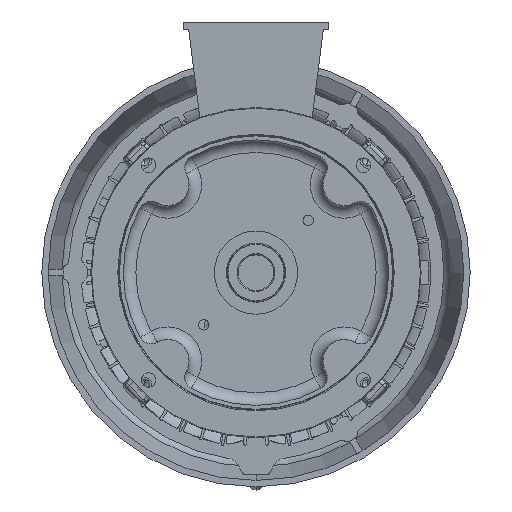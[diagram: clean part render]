
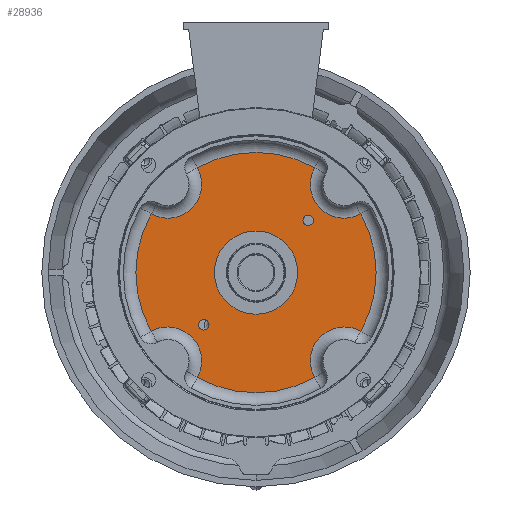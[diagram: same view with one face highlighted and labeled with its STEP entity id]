
A CAD part, front view. The second image highlights one B-rep face of the part: STEP entity #28936.
In plain terms, the highlighted planar face has unit normal (0, -1, 0) as drawn and (0, 0, 1) by its records, which use the part's own axes.
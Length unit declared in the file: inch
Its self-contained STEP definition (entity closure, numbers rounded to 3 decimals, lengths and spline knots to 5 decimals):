
#15440=CARTESIAN_POINT('',(1.56907,1.56907,3.76));
#15441=DIRECTION('',(0.,0.,1.));
#15442=DIRECTION('',(1.,0.,0.));
#15443=AXIS2_PLACEMENT_3D('',#15440,#15441,#15442);
#15445=CARTESIAN_POINT('',(1.56907,1.56907,3.76));
#15446=DIRECTION('',(0.,0.,1.));
#15447=DIRECTION('',(-1.,0.,0.));
#15448=AXIS2_PLACEMENT_3D('',#15445,#15446,#15447);
#15450=CARTESIAN_POINT('',(0.,0.,3.76));
#15451=DIRECTION('',(0.,0.,-1.));
#15452=DIRECTION('',(0.,1.,0.));
#15453=AXIS2_PLACEMENT_3D('',#15450,#15451,#15452);
#15455=CARTESIAN_POINT('',(0.,0.,3.76));
#15456=DIRECTION('',(0.,0.,-1.));
#15457=DIRECTION('',(0.,-1.,0.));
#15458=AXIS2_PLACEMENT_3D('',#15455,#15456,#15457);
#15460=CARTESIAN_POINT('',(-1.56907,-1.56907,3.76));
#15461=DIRECTION('',(0.,0.,1.));
#15462=DIRECTION('',(1.,0.,0.));
#15463=AXIS2_PLACEMENT_3D('',#15460,#15461,#15462);
#15465=CARTESIAN_POINT('',(-1.56907,-1.56907,3.76));
#15466=DIRECTION('',(0.,0.,1.));
#15467=DIRECTION('',(-1.,0.,0.));
#15468=AXIS2_PLACEMENT_3D('',#15465,#15466,#15467);
#15474=CARTESIAN_POINT('',(0.,0.,3.76));
#15475=DIRECTION('',(0.,0.,1.));
#15476=DIRECTION('',(0.873,-0.489,0.));
#15477=AXIS2_PLACEMENT_3D('',#15474,#15475,#15476);
#15479=CARTESIAN_POINT('',(0.,0.,3.76));
#15480=DIRECTION('',(0.,0.,1.));
#15481=DIRECTION('',(-0.489,-0.873,0.));
#15482=AXIS2_PLACEMENT_3D('',#15479,#15480,#15481);
#15484=CARTESIAN_POINT('',(0.,0.,3.76));
#15485=DIRECTION('',(0.,0.,1.));
#15486=DIRECTION('',(-0.873,0.489,0.));
#15487=AXIS2_PLACEMENT_3D('',#15484,#15485,#15486);
#15489=CARTESIAN_POINT('',(0.,0.,3.76));
#15490=DIRECTION('',(0.,0.,1.));
#15491=DIRECTION('',(0.489,0.873,0.));
#15492=AXIS2_PLACEMENT_3D('',#15489,#15490,#15491);
#19423=CARTESIAN_POINT('',(-2.65165,-2.65165,3.76));
#19424=DIRECTION('',(0.,0.,1.));
#19425=DIRECTION('',(0.871,-0.491,0.));
#19426=AXIS2_PLACEMENT_3D('',#19423,#19424,#19425);
#19468=CARTESIAN_POINT('',(2.65165,-2.65165,3.76));
#19469=DIRECTION('',(0.,0.,1.));
#19470=DIRECTION('',(0.491,0.871,0.));
#19471=AXIS2_PLACEMENT_3D('',#19468,#19469,#19470);
#19503=CARTESIAN_POINT('',(2.65165,2.65165,3.76));
#19504=DIRECTION('',(0.,0.,1.));
#19505=DIRECTION('',(-0.871,0.491,0.));
#19506=AXIS2_PLACEMENT_3D('',#19503,#19504,#19505);
#19548=CARTESIAN_POINT('',(-2.65165,2.65165,3.76));
#19549=DIRECTION('',(0.,0.,1.));
#19550=DIRECTION('',(-0.491,-0.871,0.));
#19551=AXIS2_PLACEMENT_3D('',#19548,#19549,#19550);
#22379=CARTESIAN_POINT('',(-3.15141,1.76448,3.76));
#22380=CARTESIAN_POINT('',(-3.15141,-1.76448,3.76));
#22381=VERTEX_POINT('',#22379);
#22382=VERTEX_POINT('',#22380);
#22383=CARTESIAN_POINT('',(-1.76448,-3.15141,3.76));
#22384=CARTESIAN_POINT('',(1.76448,-3.15141,3.76));
#22385=VERTEX_POINT('',#22383);
#22386=VERTEX_POINT('',#22384);
#22387=CARTESIAN_POINT('',(3.15141,-1.76448,3.76));
#22388=CARTESIAN_POINT('',(3.15141,1.76448,3.76));
#22389=VERTEX_POINT('',#22387);
#22390=VERTEX_POINT('',#22388);
#22391=CARTESIAN_POINT('',(1.76448,3.15141,3.76));
#22392=CARTESIAN_POINT('',(-1.76448,3.15141,3.76));
#22393=VERTEX_POINT('',#22391);
#22394=VERTEX_POINT('',#22392);
#22772=CARTESIAN_POINT('',(0.,1.25,3.76));
#22773=CARTESIAN_POINT('',(0.,-1.25,3.76));
#22774=VERTEX_POINT('',#22772);
#22775=VERTEX_POINT('',#22773);
#22837=CARTESIAN_POINT('',(-1.41257,-1.56907,3.76));
#22838=CARTESIAN_POINT('',(-1.72557,-1.56907,3.76));
#22839=VERTEX_POINT('',#22837);
#22840=VERTEX_POINT('',#22838);
#22845=CARTESIAN_POINT('',(1.72557,1.56907,3.76));
#22846=CARTESIAN_POINT('',(1.41257,1.56907,3.76));
#22847=VERTEX_POINT('',#22845);
#22848=VERTEX_POINT('',#22846);
#28896=CARTESIAN_POINT('',(0.,0.,3.76));
#28897=DIRECTION('',(0.,0.,1.));
#28898=DIRECTION('',(0.,1.,0.));
#28899=AXIS2_PLACEMENT_3D('',#28896,#28897,#28898);
#28900=PLANE('',#28899);
#28902=ORIENTED_EDGE('',*,*,#28901,.F.);
#28904=ORIENTED_EDGE('',*,*,#28903,.T.);
#28906=ORIENTED_EDGE('',*,*,#28905,.F.);
#28908=ORIENTED_EDGE('',*,*,#28907,.T.);
#28910=ORIENTED_EDGE('',*,*,#28909,.F.);
#28912=ORIENTED_EDGE('',*,*,#28911,.T.);
#28914=ORIENTED_EDGE('',*,*,#28913,.F.);
#28916=ORIENTED_EDGE('',*,*,#28915,.T.);
#28917=EDGE_LOOP('',(#28902,#28904,#28906,#28908,#28910,#28912,#28914,#28916));
#28918=FACE_OUTER_BOUND('',#28917,.F.);
#28919=ORIENTED_EDGE('',*,*,#28886,.T.);
#28921=ORIENTED_EDGE('',*,*,#28920,.T.);
#28922=EDGE_LOOP('',(#28919,#28921));
#28923=FACE_BOUND('',#28922,.F.);
#28925=ORIENTED_EDGE('',*,*,#28924,.F.);
#28927=ORIENTED_EDGE('',*,*,#28926,.F.);
#28928=EDGE_LOOP('',(#28925,#28927));
#28929=FACE_BOUND('',#28928,.F.);
#28931=ORIENTED_EDGE('',*,*,#28930,.T.);
#28933=ORIENTED_EDGE('',*,*,#28932,.T.);
#28934=EDGE_LOOP('',(#28931,#28933));
#28935=FACE_BOUND('',#28934,.F.);
#28936=ADVANCED_FACE('',(#28918,#28923,#28929,#28935),#28900,.T.);
#15444=CIRCLE('',#15443,0.1565);
#15449=CIRCLE('',#15448,0.1565);
#15454=CIRCLE('',#15453,1.25);
#15459=CIRCLE('',#15458,1.25);
#15464=CIRCLE('',#15463,0.1565);
#15469=CIRCLE('',#15468,0.1565);
#15478=CIRCLE('',#15477,3.61175);
#15483=CIRCLE('',#15482,3.61175);
#15488=CIRCLE('',#15487,3.61175);
#15493=CIRCLE('',#15492,3.61175);
#19427=CIRCLE('',#19426,1.01825);
#19472=CIRCLE('',#19471,1.01825);
#19507=CIRCLE('',#19506,1.01825);
#19552=CIRCLE('',#19551,1.01825);
#28886=EDGE_CURVE('',#22847,#22848,#15444,.T.);
#28901=EDGE_CURVE('',#22381,#22382,#15488,.T.);
#28903=EDGE_CURVE('',#22381,#22394,#19552,.T.);
#28905=EDGE_CURVE('',#22393,#22394,#15493,.T.);
#28907=EDGE_CURVE('',#22393,#22390,#19507,.T.);
#28909=EDGE_CURVE('',#22389,#22390,#15478,.T.);
#28911=EDGE_CURVE('',#22389,#22386,#19472,.T.);
#28913=EDGE_CURVE('',#22385,#22386,#15483,.T.);
#28915=EDGE_CURVE('',#22385,#22382,#19427,.T.);
#28920=EDGE_CURVE('',#22848,#22847,#15449,.T.);
#28924=EDGE_CURVE('',#22774,#22775,#15454,.T.);
#28926=EDGE_CURVE('',#22775,#22774,#15459,.T.);
#28930=EDGE_CURVE('',#22839,#22840,#15464,.T.);
#28932=EDGE_CURVE('',#22840,#22839,#15469,.T.);
